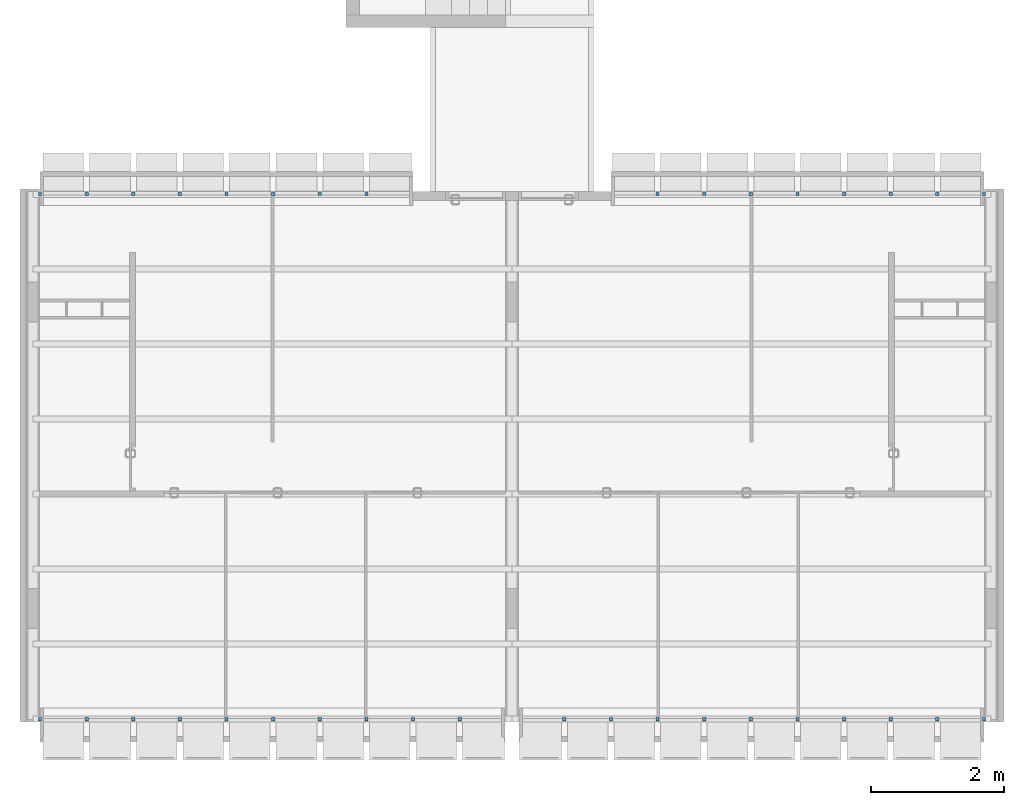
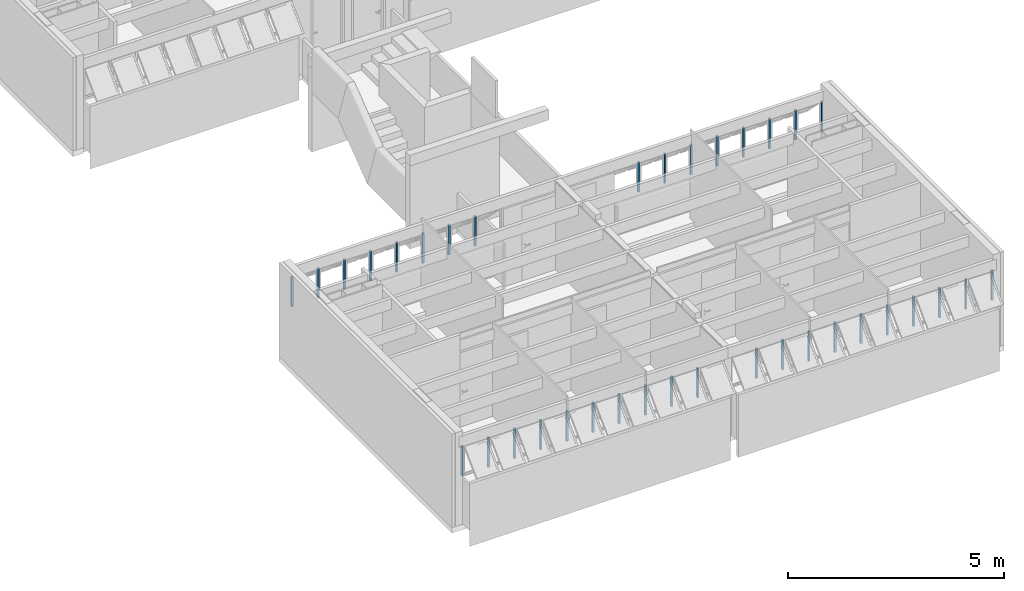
# One storey, part 2 of 41: 36 members, 4 elements without a shape of their own.
"""IFC4 building model written with IfcOpenShell, lengths in millimetres."""

from ifc_helpers import new_model, entity, si_unit, converted_unit, derived_unit, direction, frame, origin_with_axes, place, context, subcontext, project, spatial, line, indexed_curve, outline, extrude, material, type_object, element, aggregate, save


model = new_model("IFC4")

# Units and contexts
model_context = context("Model", 3, precision=0.01, world=origin_with_axes(), true_north=direction((0.0, 1.0)))
body_context = subcontext(model_context, "Body", "Model", "MODEL_VIEW")
ifc_project = project(units=[si_unit("LENGTHUNIT", "METRE", prefix="MILLI"), si_unit("AREAUNIT", "SQUARE_METRE"), si_unit("VOLUMEUNIT", "CUBIC_METRE"), converted_unit("PLANEANGLEUNIT", "DEGREE", entity("IfcPlaneAngleMeasure", 0.0174532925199), si_unit("PLANEANGLEUNIT", "RADIAN"), dimensions=[0, 0, 0, 0, 0, 0, 0]), converted_unit("TIMEUNIT", "Year", entity("IfcTimeMeasure", 31556926.0), si_unit("TIMEUNIT", "SECOND"), dimensions=[0, 0, 1, 0, 0, 0, 0]), si_unit("MASSUNIT", "GRAM", prefix="KILO"), si_unit("THERMODYNAMICTEMPERATUREUNIT", "DEGREE_CELSIUS"), si_unit("LUMINOUSINTENSITYUNIT", "LUMEN"), si_unit("ENERGYUNIT", "JOULE", prefix="MEGA"), derived_unit("THERMALCONDUCTANCEUNIT", [(si_unit("POWERUNIT", "WATT"), 1), (si_unit("LENGTHUNIT", "METRE"), -1), (si_unit("THERMODYNAMICTEMPERATUREUNIT", "KELVIN"), -1)]), derived_unit("SPECIFICHEATCAPACITYUNIT", [(si_unit("ENERGYUNIT", "JOULE"), 1), (si_unit("MASSUNIT", "GRAM", prefix="KILO"), -1), (si_unit("THERMODYNAMICTEMPERATUREUNIT", "KELVIN"), -1)]), derived_unit("MASSDENSITYUNIT", [(si_unit("MASSUNIT", "GRAM", prefix="KILO"), 1), (si_unit("VOLUMEUNIT", "CUBIC_METRE"), -1)])], contexts=[model_context])

# Site, building, storey
site_placement = place(None, origin_with_axes())
site = spatial("IfcSite", under=ifc_project, at=site_placement, Name="Local", CompositionType="ELEMENT")
building_placement = place(site_placement, origin_with_axes())
building = spatial("IfcBuilding", under=site, at=building_placement, Name="Construção", CompositionType="ELEMENT")
storey_placement = place(building_placement, frame((0.0, 0.0, 2650.0), z_axis=(0.0, 0.0, 1.0), x_axis=(1.0, 0.0, 0.0)))
storey = spatial("IfcBuildingStorey", under=building, at=storey_placement, Name="Segundo Pavimento", CompositionType="ELEMENT", Elevation=2650.0)

# Window, members
window_type = type_object("IfcWindowType", Name="Tipo de Parede Cortina", PartitioningType="NOTDEFINED", PredefinedType="NOTDEFINED")
window_1_placement = place(storey_placement, frame((6250.0, 315.020977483, 1355.02054151), z_axis=(0.0, 0.0, 1.0), x_axis=(1.0, 0.0, 0.0)))
window_1 = element("IfcWindow", 1, at=window_1_placement, inside=storey, type_object=window_type, Name="APTO5-JANELA-001", PredefinedType="NOTDEFINED")
ifc_material = material(Name="Alumínio")
member_type = type_object("IfcMemberType", Name="Montante 50 x 50", PredefinedType="MULLION")
member_1_placement = place(window_1_placement, frame((-2450.0, 0.0, 0.0), z_axis=(0.0, 0.0, 1.0), x_axis=(-1.0, 0.0, 0.0)))
member_1 = element("IfcMember", 2, at=member_1_placement, type_object=member_type, material=ifc_material, Name="APTO5-PC-Est-Mnt-430", PredefinedType="MULLION", context=body_context, shape_type="SweptSolid", body=[
    extrude(outline(indexed_curve([(-25.0, 50.0), (-25.0, 0.0), (25.0, 0.0), (25.0, 50.0)], segments=[line(1, 2, 3, 4, 1)])), frame((0.0, 0.0, 0.0), z_axis=(0.0, 0.0, 1.0), x_axis=(-1.0, 0.0, 0.0)), (0.0, 0.0, 1.0), 844.999891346),
])
member_2_placement = place(window_1_placement, frame((-1750.0, 0.0, 0.0), z_axis=(0.0, 0.0, 1.0), x_axis=(-1.0, 0.0, 0.0)))
member_2 = element("IfcMember", 3, at=member_2_placement, type_object=member_type, material=ifc_material, Name="APTO5-PC-Est-Mnt-485", PredefinedType="MULLION", context=body_context, shape_type="SweptSolid", body=[
    extrude(outline(indexed_curve([(-25.0, 50.0), (-25.0, 0.0), (25.0, 0.0), (25.0, 50.0)], segments=[line(1, 2, 3, 4, 1)])), frame((0.0, 0.0, 0.0), z_axis=(0.0, 0.0, 1.0), x_axis=(-1.0, 0.0, 0.0)), (0.0, 0.0, 1.0), 844.999891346),
])
member_3_placement = place(window_1_placement, frame((-1050.0, 0.0, 0.0), z_axis=(0.0, 0.0, 1.0), x_axis=(-1.0, 0.0, 0.0)))
member_3 = element("IfcMember", 4, at=member_3_placement, type_object=member_type, material=ifc_material, Name="APTO5-PC-Est-Mnt-486", PredefinedType="MULLION", context=body_context, shape_type="SweptSolid", body=[
    extrude(outline(indexed_curve([(-25.0, 50.0), (-25.0, 0.0), (25.0, 0.0), (25.0, 50.0)], segments=[line(1, 2, 3, 4, 1)])), frame((0.0, 0.0, 0.0), z_axis=(0.0, 0.0, 1.0), x_axis=(-1.0, 0.0, 0.0)), (0.0, 0.0, 1.0), 844.999891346),
])
member_4_placement = place(window_1_placement, frame((-3850.0, 0.0, 0.0), z_axis=(0.0, 0.0, 1.0), x_axis=(-1.0, 0.0, 0.0)))
member_4 = element("IfcMember", 5, at=member_4_placement, type_object=member_type, material=ifc_material, Name="APTO5-PC-Est-Mnt-428", PredefinedType="MULLION", context=body_context, shape_type="SweptSolid", body=[
    extrude(outline(indexed_curve([(-25.0, 50.0), (-25.0, 0.0), (25.0, 0.0), (25.0, 50.0)], segments=[line(1, 2, 3, 4, 1)])), frame((0.0, 0.0, 0.0), z_axis=(0.0, 0.0, 1.0), x_axis=(-1.0, 0.0, 0.0)), (0.0, 0.0, 1.0), 844.999891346),
])
member_5_placement = place(window_1_placement, frame((-350.0, 0.0, 0.0), z_axis=(0.0, 0.0, 1.0), x_axis=(-1.0, 0.0, 0.0)))
member_5 = element("IfcMember", 6, at=member_5_placement, type_object=member_type, material=ifc_material, Name="APTO5-PC-Est-Mnt-487", PredefinedType="MULLION", context=body_context, shape_type="SweptSolid", body=[
    extrude(outline(indexed_curve([(-25.0, 50.0), (-25.0, 0.0), (25.0, 0.0), (25.0, 50.0)], segments=[line(1, 2, 3, 4, 1)])), frame((0.0, 0.0, 0.0), z_axis=(0.0, 0.0, 1.0), x_axis=(-1.0, 0.0, 0.0)), (0.0, 0.0, 1.0), 844.999891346),
])
member_6_placement = place(window_1_placement, frame((350.0, 0.0, 0.0), z_axis=(0.0, 0.0, 1.0), x_axis=(-1.0, 0.0, 0.0)))
member_6 = element("IfcMember", 7, at=member_6_placement, type_object=member_type, material=ifc_material, Name="APTO5-PC-Est-Mnt-488", PredefinedType="MULLION", context=body_context, shape_type="SweptSolid", body=[
    extrude(outline(indexed_curve([(-25.0, 50.0), (-25.0, 0.0), (25.0, 0.0), (25.0, 50.0)], segments=[line(1, 2, 3, 4, 1)])), frame((0.0, 0.0, 0.0), z_axis=(0.0, 0.0, 1.0), x_axis=(-1.0, 0.0, 0.0)), (0.0, 0.0, 1.0), 844.999891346),
])
member_7_placement = place(window_1_placement, frame((-5950.0, 0.0, 0.0), z_axis=(0.0, 0.0, 1.0), x_axis=(-1.0, 0.0, 0.0)))
member_7 = element("IfcMember", 8, at=member_7_placement, type_object=member_type, material=ifc_material, Name="APTO5-PC-Est-Mnt-522", PredefinedType="MULLION", context=body_context, shape_type="SweptSolid", body=[
    extrude(outline(indexed_curve([(-25.0, 50.0), (-25.0, 0.0), (25.0, 0.0), (25.0, 50.0)], segments=[line(1, 2, 3, 4, 1)])), frame((0.0, 0.0, 0.0), z_axis=(0.0, 0.0, 1.0), x_axis=(-1.0, 0.0, 0.0)), (0.0, 0.0, 1.0), 844.999891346),
])
member_8_placement = place(window_1_placement, frame((-3150.0, 0.0, 0.0), z_axis=(0.0, 0.0, 1.0), x_axis=(-1.0, 0.0, 0.0)))
member_8 = element("IfcMember", 9, at=member_8_placement, type_object=member_type, material=ifc_material, Name="APTO5-PC-Est-Mnt-429", PredefinedType="MULLION", context=body_context, shape_type="SweptSolid", body=[
    extrude(outline(indexed_curve([(-25.0, 50.0), (-25.0, 0.0), (25.0, 0.0), (25.0, 50.0)], segments=[line(1, 2, 3, 4, 1)])), frame((0.0, 0.0, 0.0), z_axis=(0.0, 0.0, 1.0), x_axis=(-1.0, 0.0, 0.0)), (0.0, 0.0, 1.0), 844.999891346),
])
member_9_placement = place(window_1_placement, frame((-4550.0, 0.0, 0.0), z_axis=(0.0, 0.0, 1.0), x_axis=(-1.0, 0.0, 0.0)))
member_9 = element("IfcMember", 10, at=member_9_placement, type_object=member_type, material=ifc_material, Name="APTO5-PC-Est-Mnt-427", PredefinedType="MULLION", context=body_context, shape_type="SweptSolid", body=[
    extrude(outline(indexed_curve([(-25.0, 50.0), (-25.0, 0.0), (25.0, 0.0), (25.0, 50.0)], segments=[line(1, 2, 3, 4, 1)])), frame((0.0, 0.0, 0.0), z_axis=(0.0, 0.0, 1.0), x_axis=(-1.0, 0.0, 0.0)), (0.0, 0.0, 1.0), 844.999891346),
])
member_10_placement = place(window_1_placement, frame((-5250.0, 0.0, 0.0), z_axis=(0.0, 0.0, 1.0), x_axis=(-1.0, 0.0, 0.0)))
member_10 = element("IfcMember", 11, at=member_10_placement, type_object=member_type, material=ifc_material, Name="APTO5-PC-Est-Mnt-426", PredefinedType="MULLION", context=body_context, shape_type="SweptSolid", body=[
    extrude(outline(indexed_curve([(-25.0, 50.0), (-25.0, 0.0), (25.0, 0.0), (25.0, 50.0)], segments=[line(1, 2, 3, 4, 1)])), frame((0.0, 0.0, 0.0), z_axis=(0.0, 0.0, 1.0), x_axis=(-1.0, 0.0, 0.0)), (0.0, 0.0, 1.0), 844.999891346),
])
aggregate(window_1, [member_1, member_2, member_3, member_4, member_5, member_6, member_7, member_8, member_9, member_10])

window_2_placement = place(storey_placement, frame((2750.0, 8250.0, 1355.00007107), z_axis=(0.0, 0.0, 1.0), x_axis=(1.0, 0.0, 0.0)))
window_2 = element("IfcWindow", 12, at=window_2_placement, inside=storey, type_object=window_type, Name="APTO5-JANELA-000", PredefinedType="NOTDEFINED")
member_11_placement = place(window_2_placement, frame((1050.0, 0.0, 0.0), z_axis=(0.0, 0.0, 1.0), x_axis=(-1.0, 0.0, 0.0)))
member_11 = element("IfcMember", 13, at=member_11_placement, type_object=member_type, material=ifc_material, Name="APTO5-PC-Est-Mnt-430", PredefinedType="MULLION", context=body_context, shape_type="SweptSolid", body=[
    extrude(outline(indexed_curve([(-25.0, -50.0), (25.0, -50.0), (25.0, 0.0), (-25.0, 0.0)], segments=[line(1, 2, 3, 4, 1)])), frame((0.0, 0.0, 0.0), z_axis=(0.0, 0.0, 1.0), x_axis=(-1.0, 0.0, 0.0)), (0.0, 0.0, 1.0), 844.999928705),
])
member_12_placement = place(window_2_placement, frame((1750.0, 0.0, 0.0), z_axis=(0.0, 0.0, 1.0), x_axis=(-1.0, 0.0, 0.0)))
member_12 = element("IfcMember", 14, at=member_12_placement, type_object=member_type, material=ifc_material, Name="APTO5-PC-Est-Mnt-485", PredefinedType="MULLION", context=body_context, shape_type="SweptSolid", body=[
    extrude(outline(indexed_curve([(-25.0, -50.0), (25.0, -50.0), (25.0, 0.0), (-25.0, 0.0)], segments=[line(1, 2, 3, 4, 1)])), frame((0.0, 0.0, 0.0), z_axis=(0.0, 0.0, 1.0), x_axis=(-1.0, 0.0, 0.0)), (0.0, 0.0, 1.0), 844.999928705),
])
member_13_placement = place(window_2_placement, frame((2450.0, 0.0, 0.0), z_axis=(0.0, 0.0, 1.0), x_axis=(-1.0, 0.0, 0.0)))
member_13 = element("IfcMember", 15, at=member_13_placement, type_object=member_type, material=ifc_material, Name="APTO5-PC-Est-Mnt-486", PredefinedType="MULLION", context=body_context, shape_type="SweptSolid", body=[
    extrude(outline(indexed_curve([(-25.0, -50.0), (25.0, -50.0), (25.0, 0.0), (-25.0, 0.0)], segments=[line(1, 2, 3, 4, 1)])), frame((0.0, 0.0, 0.0), z_axis=(0.0, 0.0, 1.0), x_axis=(-1.0, 0.0, 0.0)), (0.0, 0.0, 1.0), 844.999928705),
])
member_14_placement = place(window_2_placement, frame((-350.0, 0.0, 0.0), z_axis=(0.0, 0.0, 1.0), x_axis=(-1.0, 0.0, 0.0)))
member_14 = element("IfcMember", 16, at=member_14_placement, type_object=member_type, material=ifc_material, Name="APTO5-PC-Est-Mnt-428", PredefinedType="MULLION", context=body_context, shape_type="SweptSolid", body=[
    extrude(outline(indexed_curve([(-25.0, -50.0), (25.0, -50.0), (25.0, 0.0), (-25.0, 0.0)], segments=[line(1, 2, 3, 4, 1)])), frame((0.0, 0.0, 0.0), z_axis=(0.0, 0.0, 1.0), x_axis=(-1.0, 0.0, 0.0)), (0.0, 0.0, 1.0), 844.999928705),
])
member_15_placement = place(window_2_placement, frame((-2450.0, 0.0, 0.0), z_axis=(0.0, 0.0, 1.0), x_axis=(-1.0, 0.0, 0.0)))
member_15 = element("IfcMember", 17, at=member_15_placement, type_object=member_type, material=ifc_material, Name="APTO5-PC-Est-Mnt-560", PredefinedType="MULLION", context=body_context, shape_type="SweptSolid", body=[
    extrude(outline(indexed_curve([(-25.0, -50.0), (25.0, -50.0), (25.0, 0.0), (-25.0, 0.0)], segments=[line(1, 2, 3, 4, 1)])), frame((0.0, 0.0, 0.0), z_axis=(0.0, 0.0, 1.0), x_axis=(-1.0, 0.0, 0.0)), (0.0, 0.0, 1.0), 844.999928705),
])
member_16_placement = place(window_2_placement, frame((350.0, 0.0, 0.0), z_axis=(0.0, 0.0, 1.0), x_axis=(-1.0, 0.0, 0.0)))
member_16 = element("IfcMember", 18, at=member_16_placement, type_object=member_type, material=ifc_material, Name="APTO5-PC-Est-Mnt-429", PredefinedType="MULLION", context=body_context, shape_type="SweptSolid", body=[
    extrude(outline(indexed_curve([(-25.0, -50.0), (25.0, -50.0), (25.0, 0.0), (-25.0, 0.0)], segments=[line(1, 2, 3, 4, 1)])), frame((0.0, 0.0, 0.0), z_axis=(0.0, 0.0, 1.0), x_axis=(-1.0, 0.0, 0.0)), (0.0, 0.0, 1.0), 844.999928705),
])
member_17_placement = place(window_2_placement, frame((-1050.0, 0.0, 0.0), z_axis=(0.0, 0.0, 1.0), x_axis=(-1.0, 0.0, 0.0)))
member_17 = element("IfcMember", 19, at=member_17_placement, type_object=member_type, material=ifc_material, Name="APTO5-PC-Est-Mnt-427", PredefinedType="MULLION", context=body_context, shape_type="SweptSolid", body=[
    extrude(outline(indexed_curve([(-25.0, -50.0), (25.0, -50.0), (25.0, 0.0), (-25.0, 0.0)], segments=[line(1, 2, 3, 4, 1)])), frame((0.0, 0.0, 0.0), z_axis=(0.0, 0.0, 1.0), x_axis=(-1.0, 0.0, 0.0)), (0.0, 0.0, 1.0), 844.999928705),
])
member_18_placement = place(window_2_placement, frame((-1750.0, 0.0, 0.0), z_axis=(0.0, 0.0, 1.0), x_axis=(-1.0, 0.0, 0.0)))
member_18 = element("IfcMember", 20, at=member_18_placement, type_object=member_type, material=ifc_material, Name="APTO5-PC-Est-Mnt-426", PredefinedType="MULLION", context=body_context, shape_type="SweptSolid", body=[
    extrude(outline(indexed_curve([(-25.0, -50.0), (25.0, -50.0), (25.0, 0.0), (-25.0, 0.0)], segments=[line(1, 2, 3, 4, 1)])), frame((0.0, 0.0, 0.0), z_axis=(0.0, 0.0, 1.0), x_axis=(-1.0, 0.0, 0.0)), (0.0, 0.0, 1.0), 844.999928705),
])
aggregate(window_2, [member_11, member_12, member_13, member_14, member_15, member_16, member_17, member_18])

window_3_placement = place(storey_placement, frame((12020.0, 8250.0, 1355.00007107), z_axis=(0.0, 0.0, 1.0), x_axis=(1.0, 0.0, 0.0)))
window_3 = element("IfcWindow", 21, at=window_3_placement, inside=storey, type_object=window_type, Name="APTO6-JANELA-000", PredefinedType="NOTDEFINED")
member_19_placement = place(window_3_placement, frame((-1050.0, 0.0, 0.0), z_axis=(0.0, 0.0, 1.0), x_axis=(1.0, 0.0, 0.0)))
member_19 = element("IfcMember", 22, at=member_19_placement, type_object=member_type, material=ifc_material, Name="APTO6-PC-Est-Mnt-430", PredefinedType="MULLION", context=body_context, shape_type="SweptSolid", body=[
    extrude(outline(indexed_curve([(25.0, -50.0), (25.0, 0.0), (-25.0, 0.0), (-25.0, -50.0)], segments=[line(1, 2, 3, 4, 1)])), origin_with_axes(), (0.0, 0.0, 1.0), 844.999891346),
])
member_20_placement = place(window_3_placement, frame((-1750.0, 0.0, 0.0), z_axis=(0.0, 0.0, 1.0), x_axis=(1.0, 0.0, 0.0)))
member_20 = element("IfcMember", 23, at=member_20_placement, type_object=member_type, material=ifc_material, Name="APTO6-PC-Est-Mnt-485", PredefinedType="MULLION", context=body_context, shape_type="SweptSolid", body=[
    extrude(outline(indexed_curve([(25.0, -50.0), (25.0, 0.0), (-25.0, 0.0), (-25.0, -50.0)], segments=[line(1, 2, 3, 4, 1)])), origin_with_axes(), (0.0, 0.0, 1.0), 844.999891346),
])
member_21_placement = place(window_3_placement, frame((-2450.0, 0.0, 0.0), z_axis=(0.0, 0.0, 1.0), x_axis=(1.0, 0.0, 0.0)))
member_21 = element("IfcMember", 24, at=member_21_placement, type_object=member_type, material=ifc_material, Name="APTO6-PC-Est-Mnt-486", PredefinedType="MULLION", context=body_context, shape_type="SweptSolid", body=[
    extrude(outline(indexed_curve([(25.0, -50.0), (25.0, 0.0), (-25.0, 0.0), (-25.0, -50.0)], segments=[line(1, 2, 3, 4, 1)])), origin_with_axes(), (0.0, 0.0, 1.0), 844.999891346),
])
member_22_placement = place(window_3_placement, frame((350.0, 0.0, 0.0), z_axis=(0.0, 0.0, 1.0), x_axis=(1.0, 0.0, 0.0)))
member_22 = element("IfcMember", 25, at=member_22_placement, type_object=member_type, material=ifc_material, Name="APTO6-PC-Est-Mnt-428", PredefinedType="MULLION", context=body_context, shape_type="SweptSolid", body=[
    extrude(outline(indexed_curve([(25.0, -50.0), (25.0, 0.0), (-25.0, 0.0), (-25.0, -50.0)], segments=[line(1, 2, 3, 4, 1)])), origin_with_axes(), (0.0, 0.0, 1.0), 844.999891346),
])
member_23_placement = place(window_3_placement, frame((2450.0, 0.0, 0.0), z_axis=(0.0, 0.0, 1.0), x_axis=(1.0, 0.0, 0.0)))
member_23 = element("IfcMember", 26, at=member_23_placement, type_object=member_type, material=ifc_material, Name="APTO6-PC-Est-Mnt-560", PredefinedType="MULLION", context=body_context, shape_type="SweptSolid", body=[
    extrude(outline(indexed_curve([(25.0, -50.0), (25.0, 0.0), (-25.0, 0.0), (-25.0, -50.0)], segments=[line(1, 2, 3, 4, 1)])), origin_with_axes(), (0.0, 0.0, 1.0), 844.999891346),
])
member_24_placement = place(window_3_placement, frame((-350.0, 0.0, 0.0), z_axis=(0.0, 0.0, 1.0), x_axis=(1.0, 0.0, 0.0)))
member_24 = element("IfcMember", 27, at=member_24_placement, type_object=member_type, material=ifc_material, Name="APTO6-PC-Est-Mnt-429", PredefinedType="MULLION", context=body_context, shape_type="SweptSolid", body=[
    extrude(outline(indexed_curve([(25.0, -50.0), (25.0, 0.0), (-25.0, 0.0), (-25.0, -50.0)], segments=[line(1, 2, 3, 4, 1)])), origin_with_axes(), (0.0, 0.0, 1.0), 844.999891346),
])
member_25_placement = place(window_3_placement, frame((1050.0, 0.0, 0.0), z_axis=(0.0, 0.0, 1.0), x_axis=(1.0, 0.0, 0.0)))
member_25 = element("IfcMember", 28, at=member_25_placement, type_object=member_type, material=ifc_material, Name="APTO6-PC-Est-Mnt-427", PredefinedType="MULLION", context=body_context, shape_type="SweptSolid", body=[
    extrude(outline(indexed_curve([(25.0, -50.0), (25.0, 0.0), (-25.0, 0.0), (-25.0, -50.0)], segments=[line(1, 2, 3, 4, 1)])), origin_with_axes(), (0.0, 0.0, 1.0), 844.999891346),
])
member_26_placement = place(window_3_placement, frame((1750.0, 0.0, 0.0), z_axis=(0.0, 0.0, 1.0), x_axis=(1.0, 0.0, 0.0)))
member_26 = element("IfcMember", 29, at=member_26_placement, type_object=member_type, material=ifc_material, Name="APTO6-PC-Est-Mnt-426", PredefinedType="MULLION", context=body_context, shape_type="SweptSolid", body=[
    extrude(outline(indexed_curve([(25.0, -50.0), (25.0, 0.0), (-25.0, 0.0), (-25.0, -50.0)], segments=[line(1, 2, 3, 4, 1)])), origin_with_axes(), (0.0, 0.0, 1.0), 844.999891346),
])
aggregate(window_3, [member_19, member_20, member_21, member_22, member_23, member_24, member_25, member_26])

window_4_placement = place(storey_placement, frame((8520.0, 315.020977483, 1355.02054151), z_axis=(0.0, 0.0, 1.0), x_axis=(1.0, 0.0, 0.0)))
window_4 = element("IfcWindow", 30, at=window_4_placement, inside=storey, type_object=window_type, Name="APTO6-JANELA-001", PredefinedType="NOTDEFINED")
member_27_placement = place(window_4_placement, frame((2450.0, 0.0, 0.0), z_axis=(0.0, 0.0, 1.0), x_axis=(1.0, 0.0, 0.0)))
member_27 = element("IfcMember", 31, at=member_27_placement, type_object=member_type, material=ifc_material, Name="APTO6-PC-Est-Mnt-430", PredefinedType="MULLION", context=body_context, shape_type="SweptSolid", body=[
    extrude(outline(indexed_curve([(25.0, 50.0), (-25.0, 50.0), (-25.0, 0.0), (25.0, 0.0)], segments=[line(1, 2, 3, 4, 1)])), origin_with_axes(), (0.0, 0.0, 1.0), 844.999928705),
])
member_28_placement = place(window_4_placement, frame((1750.0, 0.0, 0.0), z_axis=(0.0, 0.0, 1.0), x_axis=(1.0, 0.0, 0.0)))
member_28 = element("IfcMember", 32, at=member_28_placement, type_object=member_type, material=ifc_material, Name="APTO6-PC-Est-Mnt-485", PredefinedType="MULLION", context=body_context, shape_type="SweptSolid", body=[
    extrude(outline(indexed_curve([(25.0, 50.0), (-25.0, 50.0), (-25.0, 0.0), (25.0, 0.0)], segments=[line(1, 2, 3, 4, 1)])), origin_with_axes(), (0.0, 0.0, 1.0), 844.999928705),
])
member_29_placement = place(window_4_placement, frame((1050.0, 0.0, 0.0), z_axis=(0.0, 0.0, 1.0), x_axis=(1.0, 0.0, 0.0)))
member_29 = element("IfcMember", 33, at=member_29_placement, type_object=member_type, material=ifc_material, Name="APTO6-PC-Est-Mnt-486", PredefinedType="MULLION", context=body_context, shape_type="SweptSolid", body=[
    extrude(outline(indexed_curve([(25.0, 50.0), (-25.0, 50.0), (-25.0, 0.0), (25.0, 0.0)], segments=[line(1, 2, 3, 4, 1)])), origin_with_axes(), (0.0, 0.0, 1.0), 844.999928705),
])
member_30_placement = place(window_4_placement, frame((3850.0, 0.0, 0.0), z_axis=(0.0, 0.0, 1.0), x_axis=(1.0, 0.0, 0.0)))
member_30 = element("IfcMember", 34, at=member_30_placement, type_object=member_type, material=ifc_material, Name="APTO6-PC-Est-Mnt-428", PredefinedType="MULLION", context=body_context, shape_type="SweptSolid", body=[
    extrude(outline(indexed_curve([(25.0, 50.0), (-25.0, 50.0), (-25.0, 0.0), (25.0, 0.0)], segments=[line(1, 2, 3, 4, 1)])), origin_with_axes(), (0.0, 0.0, 1.0), 844.999928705),
])
member_31_placement = place(window_4_placement, frame((350.0, 0.0, 0.0), z_axis=(0.0, 0.0, 1.0), x_axis=(1.0, 0.0, 0.0)))
member_31 = element("IfcMember", 35, at=member_31_placement, type_object=member_type, material=ifc_material, Name="APTO6-PC-Est-Mnt-487", PredefinedType="MULLION", context=body_context, shape_type="SweptSolid", body=[
    extrude(outline(indexed_curve([(25.0, 50.0), (-25.0, 50.0), (-25.0, 0.0), (25.0, 0.0)], segments=[line(1, 2, 3, 4, 1)])), origin_with_axes(), (0.0, 0.0, 1.0), 844.999928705),
])
member_32_placement = place(window_4_placement, frame((-350.0, 0.0, 0.0), z_axis=(0.0, 0.0, 1.0), x_axis=(1.0, 0.0, 0.0)))
member_32 = element("IfcMember", 36, at=member_32_placement, type_object=member_type, material=ifc_material, Name="APTO6-PC-Est-Mnt-488", PredefinedType="MULLION", context=body_context, shape_type="SweptSolid", body=[
    extrude(outline(indexed_curve([(25.0, 50.0), (-25.0, 50.0), (-25.0, 0.0), (25.0, 0.0)], segments=[line(1, 2, 3, 4, 1)])), origin_with_axes(), (0.0, 0.0, 1.0), 844.999928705),
])
member_33_placement = place(window_4_placement, frame((5950.0, 0.0, 0.0), z_axis=(0.0, 0.0, 1.0), x_axis=(1.0, 0.0, 0.0)))
member_33 = element("IfcMember", 37, at=member_33_placement, type_object=member_type, material=ifc_material, Name="APTO6-PC-Est-Mnt-522", PredefinedType="MULLION", context=body_context, shape_type="SweptSolid", body=[
    extrude(outline(indexed_curve([(25.0, 50.0), (-25.0, 50.0), (-25.0, 0.0), (25.0, 0.0)], segments=[line(1, 2, 3, 4, 1)])), origin_with_axes(), (0.0, 0.0, 1.0), 844.999928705),
])
member_34_placement = place(window_4_placement, frame((3150.0, 0.0, 0.0), z_axis=(0.0, 0.0, 1.0), x_axis=(1.0, 0.0, 0.0)))
member_34 = element("IfcMember", 38, at=member_34_placement, type_object=member_type, material=ifc_material, Name="APTO6-PC-Est-Mnt-429", PredefinedType="MULLION", context=body_context, shape_type="SweptSolid", body=[
    extrude(outline(indexed_curve([(25.0, 50.0), (-25.0, 50.0), (-25.0, 0.0), (25.0, 0.0)], segments=[line(1, 2, 3, 4, 1)])), origin_with_axes(), (0.0, 0.0, 1.0), 844.999928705),
])
member_35_placement = place(window_4_placement, frame((4550.0, 0.0, 0.0), z_axis=(0.0, 0.0, 1.0), x_axis=(1.0, 0.0, 0.0)))
member_35 = element("IfcMember", 39, at=member_35_placement, type_object=member_type, material=ifc_material, Name="APTO6-PC-Est-Mnt-427", PredefinedType="MULLION", context=body_context, shape_type="SweptSolid", body=[
    extrude(outline(indexed_curve([(25.0, 50.0), (-25.0, 50.0), (-25.0, 0.0), (25.0, 0.0)], segments=[line(1, 2, 3, 4, 1)])), origin_with_axes(), (0.0, 0.0, 1.0), 844.999928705),
])
member_36_placement = place(window_4_placement, frame((5250.0, 0.0, 0.0), z_axis=(0.0, 0.0, 1.0), x_axis=(1.0, 0.0, 0.0)))
member_36 = element("IfcMember", 40, at=member_36_placement, type_object=member_type, material=ifc_material, Name="APTO6-PC-Est-Mnt-426", PredefinedType="MULLION", context=body_context, shape_type="SweptSolid", body=[
    extrude(outline(indexed_curve([(25.0, 50.0), (-25.0, 50.0), (-25.0, 0.0), (25.0, 0.0)], segments=[line(1, 2, 3, 4, 1)])), origin_with_axes(), (0.0, 0.0, 1.0), 844.999928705),
])
aggregate(window_4, [member_27, member_28, member_29, member_30, member_31, member_32, member_33, member_34, member_35, member_36])

save(model, "model.ifc")
